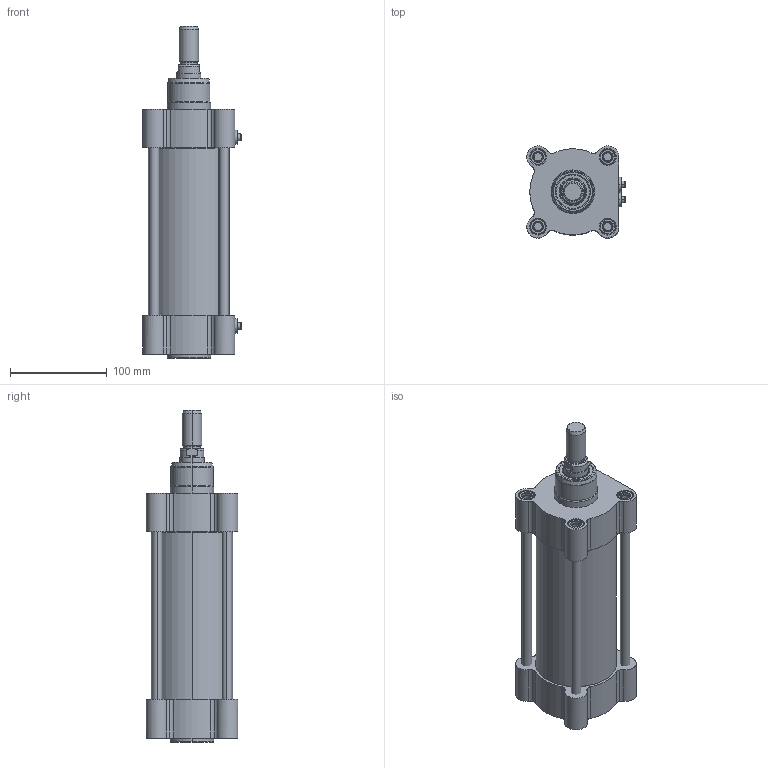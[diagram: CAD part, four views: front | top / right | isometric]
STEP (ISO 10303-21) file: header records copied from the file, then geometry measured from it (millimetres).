
FILE_DESCRIPTION (( 'STEP AP203' ), '1' );
FILE_NAME ('CTMI80-125.STEP', '2020-03-26T19:40:50', ( '' ), ( '' ), 'SwSTEP 2.0', 'SolidWorks 2019', '' );
FILE_SCHEMA (( 'CONFIG_CONTROL_DESIGN' ));
Length unit declared in the file: millimetre
Products named in the file (1): CTMI80-125
Bounding box: 101.5 x 95 x 343 mm (x, y, z)
Surface area: 251059.3 mm2 (no closed solid volume)
Topology: 0 solids, 26 shells, 731 faces, 1682 edges, 1038 vertices
Faces by surface type: cone 230, cylinder 204, plane 195, torus 86, bspline 16
Entity records: 28025 total; most frequent: CARTESIAN_POINT 12647, ORIENTED_EDGE 3308, DIRECTION 2906, EDGE_CURVE 1682, AXIS2_PLACEMENT_3D 1202, VERTEX_POINT 1038, EDGE_LOOP 804, FACE_OUTER_BOUND 731
